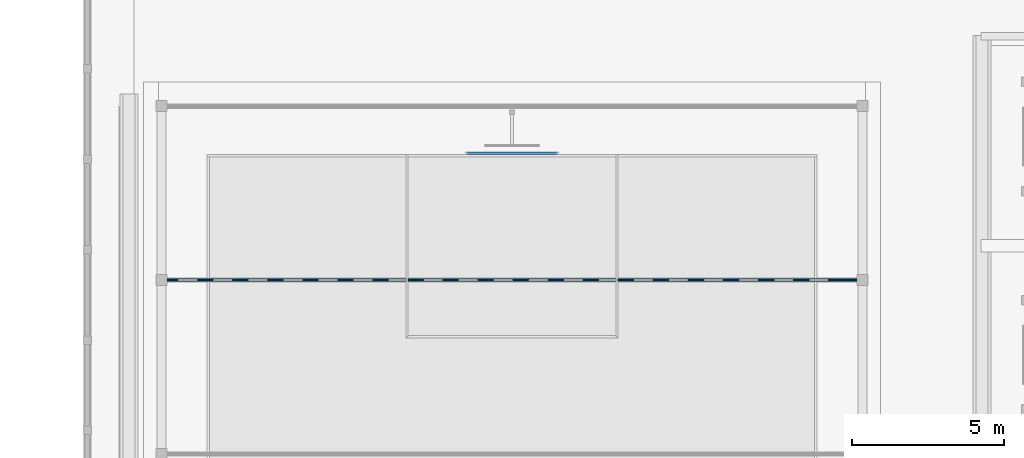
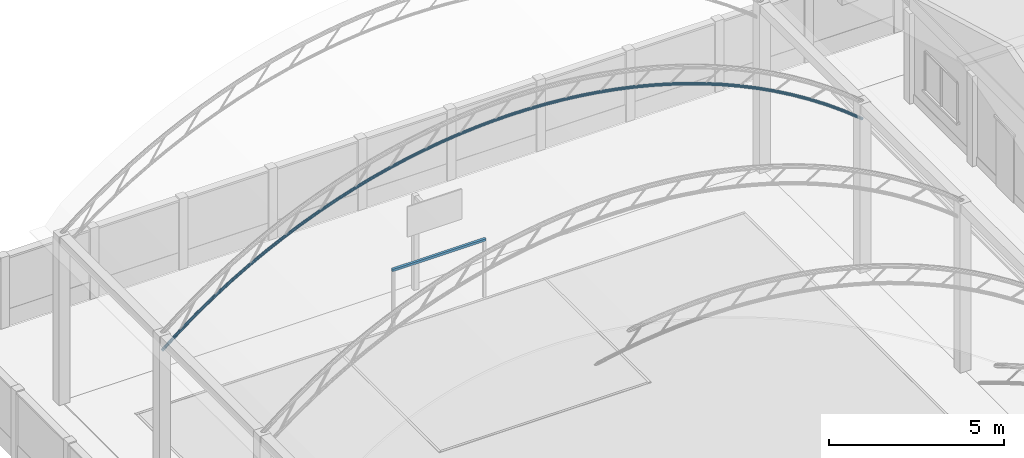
# One storey, part 31 of 177: 2 beams.
"""IFC4 building model written with IfcOpenShell, lengths in metres."""

import ifcopenshell
import ifcopenshell.guid

model = None  # the IFC model being written
_history = None  # IfcOwnerHistory: only IFC2X3 demands one
_inside = {}  # id of a spatial element -> (the spatial element, [elements in it])
_under = {}  # id of a project, library or spatial element -> (it, [spatial elements below it])
_declared = {}  # id of a project -> (the project, [libraries it declares])
_typed = {}  # id of a type object -> (the type object, [elements of that type])
_made_of = {}  # id of a material, layer set ... -> (it, [elements and type objects made of it])


def new_model(schema):
    """Start an empty IFC model of exactly this schema.

    Asked for "IFC4X3", IfcOpenShell would pick the latest addendum, in which some entities
    have other attributes; the version numbers below select the first issue.
    IFC2X3 requires an IfcOwnerHistory on every rooted entity: one is made here for all.
    """
    global model, _history
    if schema == "IFC4X3":
        model = ifcopenshell.file(schema_version=(4, 3, 0, 0))
    else:
        model = ifcopenshell.file(schema=schema)
    _inside.clear()
    _under.clear()
    _declared.clear()
    _typed.clear()
    _made_of.clear()
    _history = None
    if model.schema == "IFC2X3":
        org = make("IfcOrganization", Name="unknown")
        user = make(
            "IfcPersonAndOrganization",
            ThePerson=make("IfcPerson", FamilyName="unknown"),
            TheOrganization=org,
        )
        app = make(
            "IfcApplication",
            ApplicationDeveloper=org,
            Version="unknown",
            ApplicationFullName="unknown",
            ApplicationIdentifier="unknown",
        )
        _history = make(
            "IfcOwnerHistory",
            OwningUser=user,
            OwningApplication=app,
            ChangeAction="ADDED",
            CreationDate=0,
        )
    return model


def make(cls, **values):
    """One entity of the class cls with the attributes given. An attribute that is None is left unset."""
    return model.create_entity(
        cls, **{name: value for name, value in values.items() if value is not None}
    )


def rooted(cls, **values):
    """An entity with a GlobalId (a new one), such as an element, a storey or a relation."""
    return make(cls, GlobalId=ifcopenshell.guid.new(), OwnerHistory=_history, **values)


def si_unit(unit_type, name, prefix=None):
    """IfcSIUnit, for example si_unit("LENGTHUNIT", "METRE", prefix="MILLI")."""
    return make("IfcSIUnit", UnitType=unit_type, Prefix=prefix, Name=name)


def assignment(units):
    """IfcUnitAssignment: the units of a project."""
    return None if units is None else make("IfcUnitAssignment", Units=units)


def point(xyz):
    """IfcCartesianPoint."""
    return None if xyz is None else make("IfcCartesianPoint", Coordinates=xyz)


def direction(xyz):
    """IfcDirection."""
    return None if xyz is None else make("IfcDirection", DirectionRatios=xyz)


def frame(location, z_axis=None, x_axis=None):
    """IfcAxis2Placement3D, a coordinate frame: its origin and axes. An axis left out is left unset."""
    return make(
        "IfcAxis2Placement3D",
        Location=point(location),
        Axis=direction(z_axis),
        RefDirection=direction(x_axis),
    )


def origin():
    """The frame at (0, 0, 0) with its axes left unset."""
    return frame((0.0, 0.0, 0.0))


def origin_with_axes():
    """The frame at (0, 0, 0) with the z axis (0, 0, 1) and the x axis (1, 0, 0) written out."""
    return frame((0.0, 0.0, 0.0), z_axis=(0.0, 0.0, 1.0), x_axis=(1.0, 0.0, 0.0))


def place(relative_to, where):
    """IfcLocalPlacement: puts the frame where relative to a parent placement (None: the world)."""
    return make(
        "IfcLocalPlacement", PlacementRelTo=relative_to, RelativePlacement=where
    )


def context(
    kind, dimensions, precision=None, world=None, true_north=None, identifier=None
):
    """IfcGeometricRepresentationContext, for example the 3D "Model" context."""
    return make(
        "IfcGeometricRepresentationContext",
        ContextIdentifier=identifier,
        ContextType=kind,
        CoordinateSpaceDimension=dimensions,
        Precision=precision,
        WorldCoordinateSystem=world,
        TrueNorth=true_north,
    )


def subcontext(parent, identifier, kind, view, scale=None):
    """IfcGeometricRepresentationSubContext, for example "Body" below "Model"."""
    return make(
        "IfcGeometricRepresentationSubContext",
        ContextIdentifier=identifier,
        ContextType=kind,
        ParentContext=parent,
        TargetScale=scale,
        TargetView=view,
    )


def project(units=None, contexts=None):
    """IfcProject with its units and contexts."""
    return rooted(
        "IfcProject",
        Name="project",
        RepresentationContexts=contexts,
        UnitsInContext=assignment(units),
    )


def spatial(cls, under=None, at=None, **own):
    """A site, building, storey or space (cls), placed at a placement, below another one or the project."""
    s = rooted(cls, ObjectPlacement=at, **own)
    if under is not None:
        _under.setdefault(under.id(), (under, []))[1].append(s)
    return s


def point_list(points):
    """IfcCartesianPointList2D or 3D."""
    cls = (
        "IfcCartesianPointList2D" if len(points[0]) == 2 else "IfcCartesianPointList3D"
    )
    return make(cls, CoordList=points)


def triangles(points, corners, closed=None, point_numbers=None):
    """IfcTriangulatedFaceSet: each triangle names its three corners, points numbered from 1."""
    return make(
        "IfcTriangulatedFaceSet",
        Coordinates=point_list(points),
        Closed=closed,
        CoordIndex=corners,
        PnIndex=point_numbers,
    )


def shape(context_of_items, identifier, shape_type, items):
    """IfcShapeRepresentation: the items that make up one representation, for example the "Body"."""
    return make(
        "IfcShapeRepresentation",
        ContextOfItems=context_of_items,
        RepresentationIdentifier=identifier,
        RepresentationType=shape_type,
        Items=items,
    )


def made_of(thing, what):
    """Note that an element or type object is made of a material, layer set ...; save() writes the relation."""
    if what is not None:
        _made_of.setdefault(what.id(), (what, []))[1].append(thing)
    return thing


def element(
    cls,
    number,
    at=None,
    inside=None,
    cuts=None,
    type_object=None,
    material=None,
    context=None,
    identifier="Body",
    shape_type=None,
    held_by="IfcProductDefinitionShape",
    body=None,
    shapes=None,
    **own,
):
    """One element of the class cls, such as IfcWall. Its Tag is "e" and its number.

    at: its placement. inside: the storey or other place that contains it. cuts: it is an
    opening in that element (IfcRelVoidsElement). A single representation is given by context,
    identifier, shape_type and body (its items); several are given by shapes. held_by: the class
    of the entity that holds the representations. save() writes the other relations.
    """
    e = rooted(cls, Tag="e%d" % number, ObjectPlacement=at, **own)
    if body is not None:
        shapes = [shape(context, identifier, shape_type, body)]
    if shapes is not None:
        e.Representation = make(held_by, Representations=shapes)
    if inside is not None:
        _inside.setdefault(inside.id(), (inside, []))[1].append(e)
    if cuts is not None:
        rooted(
            "IfcRelVoidsElement", RelatingBuildingElement=cuts, RelatedOpeningElement=e
        )
    if type_object is not None:
        _typed.setdefault(type_object.id(), (type_object, []))[1].append(e)
    return made_of(e, material)


def aggregate(whole, parts):
    """IfcRelAggregates: a whole, such as a stair, and the parts it consists of."""
    return rooted("IfcRelAggregates", RelatingObject=whole, RelatedObjects=parts)


def save(model, path):
    """Write the relations noted so far, then the file.

    IfcRelAggregates (storeys below a building ...), IfcRelContainedInSpatialStructure (elements
    in a storey), IfcRelDefinesByType, IfcRelAssociatesMaterial and IfcRelDeclares: one each for
    every whole, place, type object, material and project.
    """
    for whole, parts in _under.values():
        aggregate(whole, parts)
    for where, things in _inside.values():
        rooted(
            "IfcRelContainedInSpatialStructure",
            RelatedElements=things,
            RelatingStructure=where,
        )
    for kind, things in _typed.values():
        rooted("IfcRelDefinesByType", RelatedObjects=things, RelatingType=kind)
    for what, things in _made_of.values():
        rooted("IfcRelAssociatesMaterial", RelatedObjects=things, RelatingMaterial=what)
    for by, libraries in _declared.values():
        rooted("IfcRelDeclares", RelatingContext=by, RelatedDefinitions=libraries)
    model.write(path)


model = new_model("IFC4")

# Units and contexts
model_context = context("Model", 3, precision=1e-05, world=origin_with_axes())
body_context = subcontext(model_context, "Body", "Model", "MODEL_VIEW")
ifc_project = project(units=[si_unit("LENGTHUNIT", "METRE"), si_unit("AREAUNIT", "SQUARE_METRE"), si_unit("VOLUMEUNIT", "CUBIC_METRE"), si_unit("PLANEANGLEUNIT", "RADIAN")], contexts=[model_context])

# Site, building, storey
site_placement = place(None, origin_with_axes())
site = spatial("IfcSite", under=ifc_project, at=site_placement, Name="Predio Los Mangos - Morales, San Martín", CompositionType="ELEMENT")
building_placement = place(site_placement, origin())
building = spatial("IfcBuilding", under=site, at=building_placement, Name="Hogar de Refugio Temporal", CompositionType="ELEMENT")
storey_placement = place(building_placement, origin())
storey = spatial("IfcBuildingStorey", under=building, at=storey_placement, Name="NIVEL 1 (NPT +0.00)", CompositionType="ELEMENT", Elevation=0.0)

# Beams
beam_1_placement = place(storey_placement, origin())
element("IfcBeam", 1, at=beam_1_placement, inside=storey, Name="travesano", ObjectType="Viga", PredefinedType="BEAM", context=body_context, shape_type="Tessellation", body=[
    triangles([(13.51, 125.41, 2.08), (16.59, 125.41, 2.08), (16.59, 125.49, 2.08), (13.51, 125.49, 2.08), (13.51, 125.41, 2.16), (16.59, 125.41, 2.16), (16.59, 125.49, 2.16), (13.51, 125.49, 2.16)], [[1, 4, 3], [1, 3, 2], [5, 6, 7], [5, 7, 8], [1, 2, 6], [1, 6, 5], [2, 3, 7], [2, 7, 6], [3, 4, 8], [3, 8, 7], [4, 1, 5], [4, 5, 8]]),
])
beam_2_placement = place(storey_placement, origin())
element("IfcBeam", 2, at=beam_2_placement, inside=storey, Name="arco", ObjectType="Viga", PredefinedType="BEAM", context=body_context, shape_type="Tessellation", body=[
    triangles([(3.4843, 121.31, 5.3695), (3.4729, 121.2917, 5.3838), (3.4687, 121.2667, 5.389), (3.4729, 121.2417, 5.3838), (3.4843, 121.2234, 5.3695), (3.5, 121.2167, 5.35), (3.5157, 121.2234, 5.3305), (3.5271, 121.2417, 5.3162), (3.5313, 121.2667, 5.311), (3.5271, 121.2917, 5.3162), (3.5157, 121.31, 5.3305), (3.5, 121.3167, 5.35), (4.0622, 121.31, 5.8339), (4.0511, 121.2917, 5.8484), (4.047, 121.2667, 5.8537), (4.0511, 121.2417, 5.8484), (4.0622, 121.2234, 5.8339), (4.0775, 121.2167, 5.8141), (4.0928, 121.2234, 5.7943), (4.1039, 121.2417, 5.7798), (4.108, 121.2667, 5.7745), (4.1039, 121.2917, 5.7798), (4.0928, 121.31, 5.7943), (4.0775, 121.3167, 5.8141), (4.6405, 121.31, 6.2612), (4.63, 121.2917, 6.2761), (4.6261, 121.2667, 6.2816), (4.63, 121.2417, 6.2761), (4.6405, 121.2234, 6.2612), (4.655, 121.2167, 6.2408), (4.6695, 121.2234, 6.2204), (4.68, 121.2417, 6.2055), (4.6839, 121.2667, 6.2), (4.68, 121.2917, 6.2055), (4.6695, 121.31, 6.2204), (4.655, 121.3167, 6.2408), (5.2188, 121.31, 6.6543), (5.2088, 121.2917, 6.6696), (5.2052, 121.2667, 6.6752), (5.2088, 121.2417, 6.6696), (5.2188, 121.2234, 6.6543), (5.2325, 121.2167, 6.6333), (5.2462, 121.2234, 6.6124), (5.2562, 121.2417, 6.5971), (5.2598, 121.2667, 6.5915), (5.2562, 121.2917, 6.5971), (5.2462, 121.31, 6.6124), (5.2325, 121.3167, 6.6333), (5.7971, 121.31, 7.0157), (5.7877, 121.2917, 7.0314), (5.7843, 121.2667, 7.0372), (5.7877, 121.2417, 7.0314), (5.7971, 121.2234, 7.0157), (5.81, 121.2167, 6.9943), (5.8229, 121.2234, 6.9729), (5.8323, 121.2417, 6.9572), (5.8357, 121.2667, 6.9514), (5.8323, 121.2917, 6.9572), (5.8229, 121.31, 6.9729), (5.81, 121.3167, 6.9943), (6.3755, 121.31, 7.3478), (6.3666, 121.2917, 7.3638), (6.3634, 121.2667, 7.3697), (6.3666, 121.2417, 7.3638), (6.3755, 121.2234, 7.3478), (6.3875, 121.2167, 7.3259), (6.3995, 121.2234, 7.304), (6.4084, 121.2417, 7.2879), (6.4116, 121.2667, 7.282), (6.4084, 121.2917, 7.2879), (6.3995, 121.31, 7.304), (6.3875, 121.3167, 7.3259), (6.9538, 121.31, 7.6522), (6.9455, 121.2917, 7.6685), (6.9425, 121.2667, 7.6745), (6.9455, 121.2417, 7.6685), (6.9538, 121.2234, 7.6522), (6.965, 121.2167, 7.6298), (6.9762, 121.2234, 7.6075), (6.9845, 121.2417, 7.5912), (6.9875, 121.2667, 7.5852), (6.9845, 121.2917, 7.5912), (6.9762, 121.31, 7.6075), (6.965, 121.3167, 7.6298), (7.5321, 121.31, 7.9305), (7.5244, 121.2917, 7.9471), (7.5216, 121.2667, 7.9532), (7.5244, 121.2417, 7.9471), (7.5321, 121.2234, 7.9305), (7.5425, 121.2167, 7.9077), (7.5529, 121.2234, 7.885), (7.5606, 121.2417, 7.8684), (7.5634, 121.2667, 7.8623), (7.5606, 121.2917, 7.8684), (7.5529, 121.31, 7.885), (7.5425, 121.3167, 7.9077), (8.1104, 121.31, 8.184), (8.1033, 121.2917, 8.2009), (8.1007, 121.2667, 8.2071), (8.1033, 121.2417, 8.2009), (8.1104, 121.2234, 8.184), (8.12, 121.2167, 8.1609), (8.1296, 121.2234, 8.1379), (8.1367, 121.2417, 8.121), (8.1393, 121.2667, 8.1148), (8.1367, 121.2917, 8.121), (8.1296, 121.31, 8.1379), (8.12, 121.3167, 8.1609), (8.6887, 121.31, 8.4139), (8.6822, 121.2917, 8.431), (8.6798, 121.2667, 8.4373), (8.6822, 121.2417, 8.431), (8.6887, 121.2234, 8.4139), (8.6975, 121.2167, 8.3905), (8.7063, 121.2234, 8.3671), (8.7128, 121.2417, 8.35), (8.7152, 121.2667, 8.3437), (8.7128, 121.2917, 8.35), (8.7063, 121.31, 8.3671), (8.6975, 121.3167, 8.3905), (9.267, 121.31, 8.6211), (9.2611, 121.2917, 8.6384), (9.2589, 121.2667, 8.6447), (9.2611, 121.2417, 8.6384), (9.267, 121.2234, 8.6211), (9.275, 121.2167, 8.5974), (9.283, 121.2234, 8.5737), (9.2889, 121.2417, 8.5564), (9.2911, 121.2667, 8.55), (9.2889, 121.2917, 8.5564), (9.283, 121.31, 8.5737), (9.275, 121.3167, 8.5974), (9.8453, 121.31, 8.8064), (9.84, 121.2917, 8.8239), (9.838, 121.2667, 8.8303), (9.84, 121.2417, 8.8239), (9.8453, 121.2234, 8.8064), (9.8525, 121.2167, 8.7824), (9.8597, 121.2234, 8.7585), (9.865, 121.2417, 8.741), (9.867, 121.2667, 8.7346), (9.865, 121.2917, 8.741), (9.8597, 121.31, 8.7585), (9.8525, 121.3167, 8.7824), (10.4236, 121.31, 8.9705), (10.4189, 121.2917, 8.9882), (10.4172, 121.2667, 8.9947), (10.4189, 121.2417, 8.9882), (10.4236, 121.2234, 8.9705), (10.43, 121.2167, 8.9463), (10.4364, 121.2234, 8.9222), (10.4411, 121.2417, 8.9045), (10.4429, 121.2667, 8.898), (10.4411, 121.2917, 8.9045), (10.4364, 121.31, 8.9222), (10.43, 121.3167, 8.9463), (11.0019, 121.31, 9.1141), (10.9978, 121.2917, 9.1319), (10.9963, 121.2667, 9.1384), (10.9978, 121.2417, 9.1319), (11.0019, 121.2234, 9.1141), (11.0075, 121.2167, 9.0897), (11.0131, 121.2234, 9.0653), (11.0172, 121.2417, 9.0475), (11.0187, 121.2667, 9.041), (11.0172, 121.2917, 9.0475), (11.0131, 121.31, 9.0653), (11.0075, 121.3167, 9.0897), (11.5802, 121.31, 9.2375), (11.5767, 121.2917, 9.2555), (11.5754, 121.2667, 9.2621), (11.5767, 121.2417, 9.2555), (11.5802, 121.2234, 9.2375), (11.585, 121.2167, 9.213), (11.5898, 121.2234, 9.1885), (11.5933, 121.2417, 9.1705), (11.5946, 121.2667, 9.1639), (11.5933, 121.2917, 9.1705), (11.5898, 121.31, 9.1885), (11.585, 121.3167, 9.213), (12.1585, 121.31, 9.3413), (12.1555, 121.2917, 9.3594), (12.1545, 121.2667, 9.366), (12.1555, 121.2417, 9.3594), (12.1585, 121.2234, 9.3413), (12.1625, 121.2167, 9.3166), (12.1665, 121.2234, 9.292), (12.1695, 121.2417, 9.2739), (12.1705, 121.2667, 9.2673), (12.1695, 121.2917, 9.2739), (12.1665, 121.31, 9.292), (12.1625, 121.3167, 9.3166), (12.7368, 121.31, 9.4258), (12.7344, 121.2917, 9.4439), (12.7336, 121.2667, 9.4506), (12.7344, 121.2417, 9.4439), (12.7368, 121.2234, 9.4258), (12.74, 121.2167, 9.401), (12.7432, 121.2234, 9.3762), (12.7456, 121.2417, 9.3581), (12.7464, 121.2667, 9.3514), (12.7456, 121.2917, 9.3581), (12.7432, 121.31, 9.3762), (12.74, 121.3167, 9.401), (13.3151, 121.31, 9.4912), (13.3133, 121.2917, 9.5094), (13.3127, 121.2667, 9.5161), (13.3133, 121.2417, 9.5094), (13.3151, 121.2234, 9.4912), (13.3175, 121.2167, 9.4663), (13.3199, 121.2234, 9.4415), (13.3217, 121.2417, 9.4232), (13.3223, 121.2667, 9.4166), (13.3217, 121.2917, 9.4232), (13.3199, 121.31, 9.4415), (13.3175, 121.3167, 9.4663), (13.8934, 121.31, 9.5378), (13.8922, 121.2917, 9.5561), (13.8918, 121.2667, 9.5628), (13.8922, 121.2417, 9.5561), (13.8934, 121.2234, 9.5378), (13.895, 121.2167, 9.5129), (13.8966, 121.2234, 9.4879), (13.8978, 121.2417, 9.4697), (13.8982, 121.2667, 9.463), (13.8978, 121.2917, 9.4697), (13.8966, 121.31, 9.4879), (13.895, 121.3167, 9.5129), (14.4717, 121.31, 9.5657), (14.4711, 121.2917, 9.584), (14.4709, 121.2667, 9.5907), (14.4711, 121.2417, 9.584), (14.4717, 121.2234, 9.5657), (14.4725, 121.2167, 9.5407), (14.4733, 121.2234, 9.5157), (14.4739, 121.2417, 9.4974), (14.4741, 121.2667, 9.4907), (14.4739, 121.2917, 9.4974), (14.4733, 121.31, 9.5157), (14.4725, 121.3167, 9.5407), (15.05, 121.31, 9.575), (15.05, 121.2917, 9.5933), (15.05, 121.2667, 9.6), (15.05, 121.2417, 9.5933), (15.05, 121.2234, 9.575), (15.05, 121.2167, 9.55), (15.05, 121.2234, 9.525), (15.05, 121.2417, 9.5067), (15.05, 121.2667, 9.5), (15.05, 121.2917, 9.5067), (15.05, 121.31, 9.525), (15.05, 121.3167, 9.55), (15.6283, 121.31, 9.5657), (15.6289, 121.2917, 9.584), (15.6291, 121.2667, 9.5907), (15.6289, 121.2417, 9.584), (15.6283, 121.2234, 9.5657), (15.6275, 121.2167, 9.5407), (15.6267, 121.2234, 9.5157), (15.6261, 121.2417, 9.4974), (15.6259, 121.2667, 9.4907), (15.6261, 121.2917, 9.4974), (15.6267, 121.31, 9.5157), (15.6275, 121.3167, 9.5407), (16.2066, 121.31, 9.5378), (16.2078, 121.2917, 9.5561), (16.2082, 121.2667, 9.5628), (16.2078, 121.2417, 9.5561), (16.2066, 121.2234, 9.5378), (16.205, 121.2167, 9.5129), (16.2034, 121.2234, 9.4879), (16.2022, 121.2417, 9.4697), (16.2018, 121.2667, 9.463), (16.2022, 121.2917, 9.4697), (16.2034, 121.31, 9.4879), (16.205, 121.3167, 9.5129), (16.7849, 121.31, 9.4912), (16.7867, 121.2917, 9.5094), (16.7873, 121.2667, 9.5161), (16.7867, 121.2417, 9.5094), (16.7849, 121.2234, 9.4912), (16.7825, 121.2167, 9.4663), (16.7801, 121.2234, 9.4415), (16.7783, 121.2417, 9.4232), (16.7777, 121.2667, 9.4166), (16.7783, 121.2917, 9.4232), (16.7801, 121.31, 9.4415), (16.7825, 121.3167, 9.4663), (17.3632, 121.31, 9.4258), (17.3656, 121.2917, 9.4439), (17.3664, 121.2667, 9.4506), (17.3656, 121.2417, 9.4439), (17.3632, 121.2234, 9.4258), (17.36, 121.2167, 9.401), (17.3568, 121.2234, 9.3762), (17.3544, 121.2417, 9.3581), (17.3536, 121.2667, 9.3514), (17.3544, 121.2917, 9.3581), (17.3568, 121.31, 9.3762), (17.36, 121.3167, 9.401), (17.9415, 121.31, 9.3413), (17.9445, 121.2917, 9.3594), (17.9455, 121.2667, 9.366), (17.9445, 121.2417, 9.3594), (17.9415, 121.2234, 9.3413), (17.9375, 121.2167, 9.3166), (17.9335, 121.2234, 9.292), (17.9305, 121.2417, 9.2739), (17.9295, 121.2667, 9.2673), (17.9305, 121.2917, 9.2739), (17.9335, 121.31, 9.292), (17.9375, 121.3167, 9.3166), (18.5198, 121.31, 9.2375), (18.5233, 121.2917, 9.2555), (18.5246, 121.2667, 9.2621), (18.5233, 121.2417, 9.2555), (18.5198, 121.2234, 9.2375), (18.515, 121.2167, 9.213), (18.5102, 121.2234, 9.1885), (18.5067, 121.2417, 9.1705), (18.5054, 121.2667, 9.1639), (18.5067, 121.2917, 9.1705), (18.5102, 121.31, 9.1885), (18.515, 121.3167, 9.213), (19.0981, 121.31, 9.1141), (19.1022, 121.2917, 9.1319), (19.1037, 121.2667, 9.1384), (19.1022, 121.2417, 9.1319), (19.0981, 121.2234, 9.1141), (19.0925, 121.2167, 9.0897), (19.0869, 121.2234, 9.0653), (19.0828, 121.2417, 9.0475), (19.0813, 121.2667, 9.041), (19.0828, 121.2917, 9.0475), (19.0869, 121.31, 9.0653), (19.0925, 121.3167, 9.0897), (19.6764, 121.31, 8.9705), (19.6811, 121.2917, 8.9882), (19.6828, 121.2667, 8.9947), (19.6811, 121.2417, 8.9882), (19.6764, 121.2234, 8.9705), (19.67, 121.2167, 8.9463), (19.6636, 121.2234, 8.9222), (19.6589, 121.2417, 8.9045), (19.6572, 121.2667, 8.898), (19.6589, 121.2917, 8.9045), (19.6636, 121.31, 8.9222), (19.67, 121.3167, 8.9463), (20.2547, 121.31, 8.8064), (20.26, 121.2917, 8.8239), (20.262, 121.2667, 8.8303), (20.26, 121.2417, 8.8239), (20.2547, 121.2234, 8.8064), (20.2475, 121.2167, 8.7824), (20.2403, 121.2234, 8.7585), (20.235, 121.2417, 8.741), (20.233, 121.2667, 8.7346), (20.235, 121.2917, 8.741), (20.2403, 121.31, 8.7585), (20.2475, 121.3167, 8.7824), (20.833, 121.31, 8.6211), (20.8389, 121.2917, 8.6384), (20.8411, 121.2667, 8.6447), (20.8389, 121.2417, 8.6384), (20.833, 121.2234, 8.6211), (20.825, 121.2167, 8.5974), (20.817, 121.2234, 8.5737), (20.8111, 121.2417, 8.5564), (20.8089, 121.2667, 8.55), (20.8111, 121.2917, 8.5564), (20.817, 121.31, 8.5737), (20.825, 121.3167, 8.5974), (21.4113, 121.31, 8.4139), (21.4178, 121.2917, 8.431), (21.4202, 121.2667, 8.4373), (21.4178, 121.2417, 8.431), (21.4113, 121.2234, 8.4139), (21.4025, 121.2167, 8.3905), (21.3937, 121.2234, 8.3671), (21.3872, 121.2417, 8.35), (21.3848, 121.2667, 8.3437), (21.3872, 121.2917, 8.35), (21.3937, 121.31, 8.3671), (21.4025, 121.3167, 8.3905), (21.9896, 121.31, 8.184), (21.9967, 121.2917, 8.2009), (21.9993, 121.2667, 8.2071), (21.9967, 121.2417, 8.2009), (21.9896, 121.2234, 8.184), (21.98, 121.2167, 8.1609), (21.9704, 121.2234, 8.1379), (21.9633, 121.2417, 8.121), (21.9607, 121.2667, 8.1148), (21.9633, 121.2917, 8.121), (21.9704, 121.31, 8.1379), (21.98, 121.3167, 8.1609), (22.5679, 121.31, 7.9305), (22.5756, 121.2917, 7.9471), (22.5784, 121.2667, 7.9532), (22.5756, 121.2417, 7.9471), (22.5679, 121.2234, 7.9305), (22.5575, 121.2167, 7.9077), (22.5471, 121.2234, 7.885), (22.5394, 121.2417, 7.8684), (22.5366, 121.2667, 7.8623), (22.5394, 121.2917, 7.8684), (22.5471, 121.31, 7.885), (22.5575, 121.3167, 7.9077), (23.1462, 121.31, 7.6522), (23.1545, 121.2917, 7.6685), (23.1575, 121.2667, 7.6745), (23.1545, 121.2417, 7.6685), (23.1462, 121.2234, 7.6522), (23.135, 121.2167, 7.6298), (23.1238, 121.2234, 7.6075), (23.1155, 121.2417, 7.5912), (23.1125, 121.2667, 7.5852), (23.1155, 121.2917, 7.5912), (23.1238, 121.31, 7.6075), (23.135, 121.3167, 7.6298), (23.7245, 121.31, 7.3478), (23.7334, 121.2917, 7.3638), (23.7366, 121.2667, 7.3697), (23.7334, 121.2417, 7.3638), (23.7245, 121.2234, 7.3478), (23.7125, 121.2167, 7.3259), (23.7005, 121.2234, 7.304), (23.6916, 121.2417, 7.2879), (23.6884, 121.2667, 7.282), (23.6916, 121.2917, 7.2879), (23.7005, 121.31, 7.304), (23.7125, 121.3167, 7.3259), (24.3029, 121.31, 7.0157), (24.3123, 121.2917, 7.0314), (24.3157, 121.2667, 7.0372), (24.3123, 121.2417, 7.0314), (24.3029, 121.2234, 7.0157), (24.29, 121.2167, 6.9943), (24.2771, 121.2234, 6.9729), (24.2677, 121.2417, 6.9572), (24.2643, 121.2667, 6.9514), (24.2677, 121.2917, 6.9572), (24.2771, 121.31, 6.9729), (24.29, 121.3167, 6.9943), (24.8812, 121.31, 6.6543), (24.8912, 121.2917, 6.6696), (24.8948, 121.2667, 6.6752), (24.8912, 121.2417, 6.6696), (24.8812, 121.2234, 6.6543), (24.8675, 121.2167, 6.6333), (24.8538, 121.2234, 6.6124), (24.8438, 121.2417, 6.5971), (24.8402, 121.2667, 6.5915), (24.8438, 121.2917, 6.5971), (24.8538, 121.31, 6.6124), (24.8675, 121.3167, 6.6333), (25.4595, 121.31, 6.2612), (25.47, 121.2917, 6.2761), (25.4739, 121.2667, 6.2816), (25.47, 121.2417, 6.2761), (25.4595, 121.2234, 6.2612), (25.445, 121.2167, 6.2408), (25.4305, 121.2234, 6.2204), (25.42, 121.2417, 6.2055), (25.4161, 121.2667, 6.2), (25.42, 121.2917, 6.2055), (25.4305, 121.31, 6.2204), (25.445, 121.3167, 6.2408), (26.0378, 121.31, 5.8339), (26.0489, 121.2917, 5.8484), (26.053, 121.2667, 5.8537), (26.0489, 121.2417, 5.8484), (26.0378, 121.2234, 5.8339), (26.0225, 121.2167, 5.8141), (26.0072, 121.2234, 5.7943), (25.9961, 121.2417, 5.7798), (25.992, 121.2667, 5.7745), (25.9961, 121.2917, 5.7798), (26.0072, 121.31, 5.7943), (26.0225, 121.3167, 5.8141), (26.6157, 121.31, 5.3695), (26.6271, 121.2917, 5.3838), (26.6313, 121.2667, 5.389), (26.6271, 121.2417, 5.3838), (26.6157, 121.2234, 5.3695), (26.6, 121.2167, 5.35), (26.5843, 121.2234, 5.3305), (26.5729, 121.2417, 5.3162), (26.5687, 121.2667, 5.311), (26.5729, 121.2917, 5.3162), (26.5843, 121.31, 5.3305), (26.6, 121.3167, 5.35)], [[1, 13, 24], [1, 24, 12], [2, 14, 13], [2, 13, 1], [3, 15, 14], [3, 14, 2], [4, 16, 15], [4, 15, 3], [5, 17, 16], [5, 16, 4], [6, 18, 17], [6, 17, 5], [7, 19, 18], [7, 18, 6], [8, 20, 19], [8, 19, 7], [9, 21, 20], [9, 20, 8], [10, 22, 21], [10, 21, 9], [11, 23, 22], [11, 22, 10], [12, 24, 23], [12, 23, 11], [13, 25, 36], [13, 36, 24], [14, 26, 25], [14, 25, 13], [15, 27, 26], [15, 26, 14], [16, 28, 27], [16, 27, 15], [17, 29, 28], [17, 28, 16], [18, 30, 29], [18, 29, 17], [19, 31, 30], [19, 30, 18], [20, 32, 31], [20, 31, 19], [21, 33, 32], [21, 32, 20], [22, 34, 33], [22, 33, 21], [23, 35, 34], [23, 34, 22], [24, 36, 35], [24, 35, 23], [25, 37, 48], [25, 48, 36], [26, 38, 37], [26, 37, 25], [27, 39, 38], [27, 38, 26], [28, 40, 39], [28, 39, 27], [29, 41, 40], [29, 40, 28], [30, 42, 41], [30, 41, 29], [31, 43, 42], [31, 42, 30], [32, 44, 43], [32, 43, 31], [33, 45, 44], [33, 44, 32], [34, 46, 45], [34, 45, 33], [35, 47, 46], [35, 46, 34], [36, 48, 47], [36, 47, 35], [37, 49, 60], [37, 60, 48], [38, 50, 49], [38, 49, 37], [39, 51, 50], [39, 50, 38], [40, 52, 51], [40, 51, 39], [41, 53, 52], [41, 52, 40], [42, 54, 53], [42, 53, 41], [43, 55, 54], [43, 54, 42], [44, 56, 55], [44, 55, 43], [45, 57, 56], [45, 56, 44], [46, 58, 57], [46, 57, 45], [47, 59, 58], [47, 58, 46], [48, 60, 59], [48, 59, 47], [49, 61, 72], [49, 72, 60], [50, 62, 61], [50, 61, 49], [51, 63, 62], [51, 62, 50], [52, 64, 63], [52, 63, 51], [53, 65, 64], [53, 64, 52], [54, 66, 65], [54, 65, 53], [55, 67, 66], [55, 66, 54], [56, 68, 67], [56, 67, 55], [57, 69, 68], [57, 68, 56], [58, 70, 69], [58, 69, 57], [59, 71, 70], [59, 70, 58], [60, 72, 71], [60, 71, 59], [61, 73, 84], [61, 84, 72], [62, 74, 73], [62, 73, 61], [63, 75, 74], [63, 74, 62], [64, 76, 75], [64, 75, 63], [65, 77, 76], [65, 76, 64], [66, 78, 77], [66, 77, 65], [67, 79, 78], [67, 78, 66], [68, 80, 79], [68, 79, 67], [69, 81, 80], [69, 80, 68], [70, 82, 81], [70, 81, 69], [71, 83, 82], [71, 82, 70], [72, 84, 83], [72, 83, 71], [73, 85, 96], [73, 96, 84], [74, 86, 85], [74, 85, 73], [75, 87, 86], [75, 86, 74], [76, 88, 87], [76, 87, 75], [77, 89, 88], [77, 88, 76], [78, 90, 89], [78, 89, 77], [79, 91, 90], [79, 90, 78], [80, 92, 91], [80, 91, 79], [81, 93, 92], [81, 92, 80], [82, 94, 93], [82, 93, 81], [83, 95, 94], [83, 94, 82], [84, 96, 95], [84, 95, 83], [85, 97, 108], [85, 108, 96], [86, 98, 97], [86, 97, 85], [87, 99, 98], [87, 98, 86], [88, 100, 99], [88, 99, 87], [89, 101, 100], [89, 100, 88], [90, 102, 101], [90, 101, 89], [91, 103, 102], [91, 102, 90], [92, 104, 103], [92, 103, 91], [93, 105, 104], [93, 104, 92], [94, 106, 105], [94, 105, 93], [95, 107, 106], [95, 106, 94], [96, 108, 107], [96, 107, 95], [97, 109, 120], [97, 120, 108], [98, 110, 109], [98, 109, 97], [99, 111, 110], [99, 110, 98], [100, 112, 111], [100, 111, 99], [101, 113, 112], [101, 112, 100], [102, 114, 113], [102, 113, 101], [103, 115, 114], [103, 114, 102], [104, 116, 115], [104, 115, 103], [105, 117, 116], [105, 116, 104], [106, 118, 117], [106, 117, 105], [107, 119, 118], [107, 118, 106], [108, 120, 119], [108, 119, 107], [109, 121, 132], [109, 132, 120], [110, 122, 121], [110, 121, 109], [111, 123, 122], [111, 122, 110], [112, 124, 123], [112, 123, 111], [113, 125, 124], [113, 124, 112], [114, 126, 125], [114, 125, 113], [115, 127, 126], [115, 126, 114], [116, 128, 127], [116, 127, 115], [117, 129, 128], [117, 128, 116], [118, 130, 129], [118, 129, 117], [119, 131, 130], [119, 130, 118], [120, 132, 131], [120, 131, 119], [121, 133, 144], [121, 144, 132], [122, 134, 133], [122, 133, 121], [123, 135, 134], [123, 134, 122], [124, 136, 135], [124, 135, 123], [125, 137, 136], [125, 136, 124], [126, 138, 137], [126, 137, 125], [127, 139, 138], [127, 138, 126], [128, 140, 139], [128, 139, 127], [129, 141, 140], [129, 140, 128], [130, 142, 141], [130, 141, 129], [131, 143, 142], [131, 142, 130], [132, 144, 143], [132, 143, 131], [133, 145, 156], [133, 156, 144], [134, 146, 145], [134, 145, 133], [135, 147, 146], [135, 146, 134], [136, 148, 147], [136, 147, 135], [137, 149, 148], [137, 148, 136], [138, 150, 149], [138, 149, 137], [139, 151, 150], [139, 150, 138], [140, 152, 151], [140, 151, 139], [141, 153, 152], [141, 152, 140], [142, 154, 153], [142, 153, 141], [143, 155, 154], [143, 154, 142], [144, 156, 155], [144, 155, 143], [145, 157, 168], [145, 168, 156], [146, 158, 157], [146, 157, 145], [147, 159, 158], [147, 158, 146], [148, 160, 159], [148, 159, 147], [149, 161, 160], [149, 160, 148], [150, 162, 161], [150, 161, 149], [151, 163, 162], [151, 162, 150], [152, 164, 163], [152, 163, 151], [153, 165, 164], [153, 164, 152], [154, 166, 165], [154, 165, 153], [155, 167, 166], [155, 166, 154], [156, 168, 167], [156, 167, 155], [157, 169, 180], [157, 180, 168], [158, 170, 169], [158, 169, 157], [159, 171, 170], [159, 170, 158], [160, 172, 171], [160, 171, 159], [161, 173, 172], [161, 172, 160], [162, 174, 173], [162, 173, 161], [163, 175, 174], [163, 174, 162], [164, 176, 175], [164, 175, 163], [165, 177, 176], [165, 176, 164], [166, 178, 177], [166, 177, 165], [167, 179, 178], [167, 178, 166], [168, 180, 179], [168, 179, 167], [169, 181, 192], [169, 192, 180], [170, 182, 181], [170, 181, 169], [171, 183, 182], [171, 182, 170], [172, 184, 183], [172, 183, 171], [173, 185, 184], [173, 184, 172], [174, 186, 185], [174, 185, 173], [175, 187, 186], [175, 186, 174], [176, 188, 187], [176, 187, 175], [177, 189, 188], [177, 188, 176], [178, 190, 189], [178, 189, 177], [179, 191, 190], [179, 190, 178], [180, 192, 191], [180, 191, 179], [181, 193, 204], [181, 204, 192], [182, 194, 193], [182, 193, 181], [183, 195, 194], [183, 194, 182], [184, 196, 195], [184, 195, 183], [185, 197, 196], [185, 196, 184], [186, 198, 197], [186, 197, 185], [187, 199, 198], [187, 198, 186], [188, 200, 199], [188, 199, 187], [189, 201, 200], [189, 200, 188], [190, 202, 201], [190, 201, 189], [191, 203, 202], [191, 202, 190], [192, 204, 203], [192, 203, 191], [193, 205, 216], [193, 216, 204], [194, 206, 205], [194, 205, 193], [195, 207, 206], [195, 206, 194], [196, 208, 207], [196, 207, 195], [197, 209, 208], [197, 208, 196], [198, 210, 209], [198, 209, 197], [199, 211, 210], [199, 210, 198], [200, 212, 211], [200, 211, 199], [201, 213, 212], [201, 212, 200], [202, 214, 213], [202, 213, 201], [203, 215, 214], [203, 214, 202], [204, 216, 215], [204, 215, 203], [205, 217, 228], [205, 228, 216], [206, 218, 217], [206, 217, 205], [207, 219, 218], [207, 218, 206], [208, 220, 219], [208, 219, 207], [209, 221, 220], [209, 220, 208], [210, 222, 221], [210, 221, 209], [211, 223, 222], [211, 222, 210], [212, 224, 223], [212, 223, 211], [213, 225, 224], [213, 224, 212], [214, 226, 225], [214, 225, 213], [215, 227, 226], [215, 226, 214], [216, 228, 227], [216, 227, 215], [217, 229, 240], [217, 240, 228], [218, 230, 229], [218, 229, 217], [219, 231, 230], [219, 230, 218], [220, 232, 231], [220, 231, 219], [221, 233, 232], [221, 232, 220], [222, 234, 233], [222, 233, 221], [223, 235, 234], [223, 234, 222], [224, 236, 235], [224, 235, 223], [225, 237, 236], [225, 236, 224], [226, 238, 237], [226, 237, 225], [227, 239, 238], [227, 238, 226], [228, 240, 239], [228, 239, 227], [229, 241, 252], [229, 252, 240], [230, 242, 241], [230, 241, 229], [231, 243, 242], [231, 242, 230], [232, 244, 243], [232, 243, 231], [233, 245, 244], [233, 244, 232], [234, 246, 245], [234, 245, 233], [235, 247, 246], [235, 246, 234], [236, 248, 247], [236, 247, 235], [237, 249, 248], [237, 248, 236], [238, 250, 249], [238, 249, 237], [239, 251, 250], [239, 250, 238], [240, 252, 251], [240, 251, 239], [241, 253, 264], [241, 264, 252], [242, 254, 253], [242, 253, 241], [243, 255, 254], [243, 254, 242], [244, 256, 255], [244, 255, 243], [245, 257, 256], [245, 256, 244], [246, 258, 257], [246, 257, 245], [247, 259, 258], [247, 258, 246], [248, 260, 259], [248, 259, 247], [249, 261, 260], [249, 260, 248], [250, 262, 261], [250, 261, 249], [251, 263, 262], [251, 262, 250], [252, 264, 263], [252, 263, 251], [253, 265, 276], [253, 276, 264], [254, 266, 265], [254, 265, 253], [255, 267, 266], [255, 266, 254], [256, 268, 267], [256, 267, 255], [257, 269, 268], [257, 268, 256], [258, 270, 269], [258, 269, 257], [259, 271, 270], [259, 270, 258], [260, 272, 271], [260, 271, 259], [261, 273, 272], [261, 272, 260], [262, 274, 273], [262, 273, 261], [263, 275, 274], [263, 274, 262], [264, 276, 275], [264, 275, 263], [265, 277, 288], [265, 288, 276], [266, 278, 277], [266, 277, 265], [267, 279, 278], [267, 278, 266], [268, 280, 279], [268, 279, 267], [269, 281, 280], [269, 280, 268], [270, 282, 281], [270, 281, 269], [271, 283, 282], [271, 282, 270], [272, 284, 283], [272, 283, 271], [273, 285, 284], [273, 284, 272], [274, 286, 285], [274, 285, 273], [275, 287, 286], [275, 286, 274], [276, 288, 287], [276, 287, 275], [277, 289, 300], [277, 300, 288], [278, 290, 289], [278, 289, 277], [279, 291, 290], [279, 290, 278], [280, 292, 291], [280, 291, 279], [281, 293, 292], [281, 292, 280], [282, 294, 293], [282, 293, 281], [283, 295, 294], [283, 294, 282], [284, 296, 295], [284, 295, 283], [285, 297, 296], [285, 296, 284], [286, 298, 297], [286, 297, 285], [287, 299, 298], [287, 298, 286], [288, 300, 299], [288, 299, 287], [289, 301, 312], [289, 312, 300], [290, 302, 301], [290, 301, 289], [291, 303, 302], [291, 302, 290], [292, 304, 303], [292, 303, 291], [293, 305, 304], [293, 304, 292], [294, 306, 305], [294, 305, 293], [295, 307, 306], [295, 306, 294], [296, 308, 307], [296, 307, 295], [297, 309, 308], [297, 308, 296], [298, 310, 309], [298, 309, 297], [299, 311, 310], [299, 310, 298], [300, 312, 311], [300, 311, 299], [301, 313, 324], [301, 324, 312], [302, 314, 313], [302, 313, 301], [303, 315, 314], [303, 314, 302], [304, 316, 315], [304, 315, 303], [305, 317, 316], [305, 316, 304], [306, 318, 317], [306, 317, 305], [307, 319, 318], [307, 318, 306], [308, 320, 319], [308, 319, 307], [309, 321, 320], [309, 320, 308], [310, 322, 321], [310, 321, 309], [311, 323, 322], [311, 322, 310], [312, 324, 323], [312, 323, 311], [313, 325, 336], [313, 336, 324], [314, 326, 325], [314, 325, 313], [315, 327, 326], [315, 326, 314], [316, 328, 327], [316, 327, 315], [317, 329, 328], [317, 328, 316], [318, 330, 329], [318, 329, 317], [319, 331, 330], [319, 330, 318], [320, 332, 331], [320, 331, 319], [321, 333, 332], [321, 332, 320], [322, 334, 333], [322, 333, 321], [323, 335, 334], [323, 334, 322], [324, 336, 335], [324, 335, 323], [325, 337, 348], [325, 348, 336], [326, 338, 337], [326, 337, 325], [327, 339, 338], [327, 338, 326], [328, 340, 339], [328, 339, 327], [329, 341, 340], [329, 340, 328], [330, 342, 341], [330, 341, 329], [331, 343, 342], [331, 342, 330], [332, 344, 343], [332, 343, 331], [333, 345, 344], [333, 344, 332], [334, 346, 345], [334, 345, 333], [335, 347, 346], [335, 346, 334], [336, 348, 347], [336, 347, 335], [337, 349, 360], [337, 360, 348], [338, 350, 349], [338, 349, 337], [339, 351, 350], [339, 350, 338], [340, 352, 351], [340, 351, 339], [341, 353, 352], [341, 352, 340], [342, 354, 353], [342, 353, 341], [343, 355, 354], [343, 354, 342], [344, 356, 355], [344, 355, 343], [345, 357, 356], [345, 356, 344], [346, 358, 357], [346, 357, 345], [347, 359, 358], [347, 358, 346], [348, 360, 359], [348, 359, 347], [349, 361, 372], [349, 372, 360], [350, 362, 361], [350, 361, 349], [351, 363, 362], [351, 362, 350], [352, 364, 363], [352, 363, 351], [353, 365, 364], [353, 364, 352], [354, 366, 365], [354, 365, 353], [355, 367, 366], [355, 366, 354], [356, 368, 367], [356, 367, 355], [357, 369, 368], [357, 368, 356], [358, 370, 369], [358, 369, 357], [359, 371, 370], [359, 370, 358], [360, 372, 371], [360, 371, 359], [361, 373, 384], [361, 384, 372], [362, 374, 373], [362, 373, 361], [363, 375, 374], [363, 374, 362], [364, 376, 375], [364, 375, 363], [365, 377, 376], [365, 376, 364], [366, 378, 377], [366, 377, 365], [367, 379, 378], [367, 378, 366], [368, 380, 379], [368, 379, 367], [369, 381, 380], [369, 380, 368], [370, 382, 381], [370, 381, 369], [371, 383, 382], [371, 382, 370], [372, 384, 383], [372, 383, 371], [373, 385, 396], [373, 396, 384], [374, 386, 385], [374, 385, 373], [375, 387, 386], [375, 386, 374], [376, 388, 387], [376, 387, 375], [377, 389, 388], [377, 388, 376], [378, 390, 389], [378, 389, 377], [379, 391, 390], [379, 390, 378], [380, 392, 391], [380, 391, 379], [381, 393, 392], [381, 392, 380], [382, 394, 393], [382, 393, 381], [383, 395, 394], [383, 394, 382], [384, 396, 395], [384, 395, 383], [385, 397, 408], [385, 408, 396], [386, 398, 397], [386, 397, 385], [387, 399, 398], [387, 398, 386], [388, 400, 399], [388, 399, 387], [389, 401, 400], [389, 400, 388], [390, 402, 401], [390, 401, 389], [391, 403, 402], [391, 402, 390], [392, 404, 403], [392, 403, 391], [393, 405, 404], [393, 404, 392], [394, 406, 405], [394, 405, 393], [395, 407, 406], [395, 406, 394], [396, 408, 407], [396, 407, 395], [397, 409, 420], [397, 420, 408], [398, 410, 409], [398, 409, 397], [399, 411, 410], [399, 410, 398], [400, 412, 411], [400, 411, 399], [401, 413, 412], [401, 412, 400], [402, 414, 413], [402, 413, 401], [403, 415, 414], [403, 414, 402], [404, 416, 415], [404, 415, 403], [405, 417, 416], [405, 416, 404], [406, 418, 417], [406, 417, 405], [407, 419, 418], [407, 418, 406], [408, 420, 419], [408, 419, 407], [409, 421, 432], [409, 432, 420], [410, 422, 421], [410, 421, 409], [411, 423, 422], [411, 422, 410], [412, 424, 423], [412, 423, 411], [413, 425, 424], [413, 424, 412], [414, 426, 425], [414, 425, 413], [415, 427, 426], [415, 426, 414], [416, 428, 427], [416, 427, 415], [417, 429, 428], [417, 428, 416], [418, 430, 429], [418, 429, 417], [419, 431, 430], [419, 430, 418], [420, 432, 431], [420, 431, 419], [421, 433, 444], [421, 444, 432], [422, 434, 433], [422, 433, 421], [423, 435, 434], [423, 434, 422], [424, 436, 435], [424, 435, 423], [425, 437, 436], [425, 436, 424], [426, 438, 437], [426, 437, 425], [427, 439, 438], [427, 438, 426], [428, 440, 439], [428, 439, 427], [429, 441, 440], [429, 440, 428], [430, 442, 441], [430, 441, 429], [431, 443, 442], [431, 442, 430], [432, 444, 443], [432, 443, 431], [433, 445, 456], [433, 456, 444], [434, 446, 445], [434, 445, 433], [435, 447, 446], [435, 446, 434], [436, 448, 447], [436, 447, 435], [437, 449, 448], [437, 448, 436], [438, 450, 449], [438, 449, 437], [439, 451, 450], [439, 450, 438], [440, 452, 451], [440, 451, 439], [441, 453, 452], [441, 452, 440], [442, 454, 453], [442, 453, 441], [443, 455, 454], [443, 454, 442], [444, 456, 455], [444, 455, 443], [445, 457, 468], [445, 468, 456], [446, 458, 457], [446, 457, 445], [447, 459, 458], [447, 458, 446], [448, 460, 459], [448, 459, 447], [449, 461, 460], [449, 460, 448], [450, 462, 461], [450, 461, 449], [451, 463, 462], [451, 462, 450], [452, 464, 463], [452, 463, 451], [453, 465, 464], [453, 464, 452], [454, 466, 465], [454, 465, 453], [455, 467, 466], [455, 466, 454], [456, 468, 467], [456, 467, 455], [457, 469, 480], [457, 480, 468], [458, 470, 469], [458, 469, 457], [459, 471, 470], [459, 470, 458], [460, 472, 471], [460, 471, 459], [461, 473, 472], [461, 472, 460], [462, 474, 473], [462, 473, 461], [463, 475, 474], [463, 474, 462], [464, 476, 475], [464, 475, 463], [465, 477, 476], [465, 476, 464], [466, 478, 477], [466, 477, 465], [467, 479, 478], [467, 478, 466], [468, 480, 479], [468, 479, 467], [469, 481, 492], [469, 492, 480], [470, 482, 481], [470, 481, 469], [471, 483, 482], [471, 482, 470], [472, 484, 483], [472, 483, 471], [473, 485, 484], [473, 484, 472], [474, 486, 485], [474, 485, 473], [475, 487, 486], [475, 486, 474], [476, 488, 487], [476, 487, 475], [477, 489, 488], [477, 488, 476], [478, 490, 489], [478, 489, 477], [479, 491, 490], [479, 490, 478], [480, 492, 491], [480, 491, 479]]),
])

save(model, "model.ifc")
